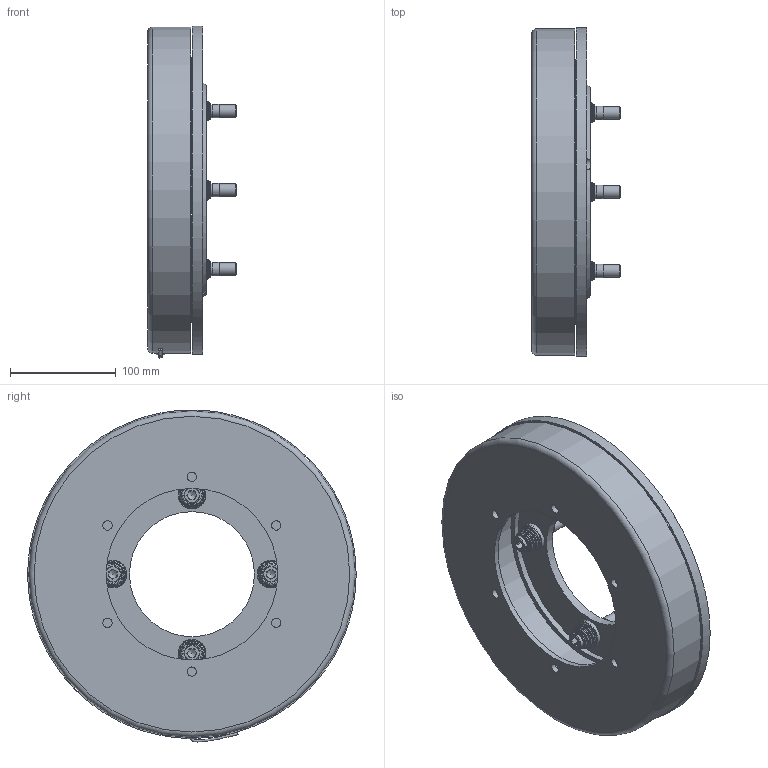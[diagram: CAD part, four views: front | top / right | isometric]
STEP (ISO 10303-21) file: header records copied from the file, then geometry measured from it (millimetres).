
FILE_DESCRIPTION(/* description */ (''),/* implementation_level */ '2;1');
FILE_NAME(/* name */ 'X:\INVENTOR\DISEGNI\08_Freni_Friz_Elettmag_Monodisco\08_04 EMF\08_04_310_01 EMF310\08_04_310_01 EMF310@STEP.stp',/* time_stamp */ '2023-02-15T15:53:47+01:00',/* author */ ('alessio'),/* organization */ (''),/* preprocessor_version */ 'ST-DEVELOPER v18.1',/* originating_system */ 'Autodesk Inventor 2021',/* authorisation */ '');
FILE_SCHEMA (('AUTOMOTIVE_DESIGN { 1 0 10303 214 3 1 1 }'));
Length unit declared in the file: millimetre
Products named in the file (1): 08_04_310_01 EMF310
Bounding box: 84 x 309.89 x 313.41 mm (x, y, z)
Volume: 2456280.8 mm3; surface area: 340017.3 mm2
Topology: 6 solids, 10 shells, 332 faces, 827 edges, 545 vertices
Faces by surface type: plane 174, cylinder 104, cone 30, bspline 15, torus 9
Full cylindrical faces by diameter (mm): 1.7 x8, 2 x8, 4 x1, 8.1 x4, 8.75 x6, 10.5 x12, 11 x1, 12 x4, 12.5 x4, 12.7 x4, 14.3 x4, 15 x16, 26 x8, 118 x1, 162 x1, 193 x1, 200 x1, 308 x1, 310 x1
Entity records: 19314 total; most frequent: CARTESIAN_POINT 10570, DIRECTION 1734, ORIENTED_EDGE 1672, EDGE_CURVE 836, AXIS2_PLACEMENT_3D 690, VERTEX_POINT 561, EDGE_LOOP 463, CIRCLE 372
